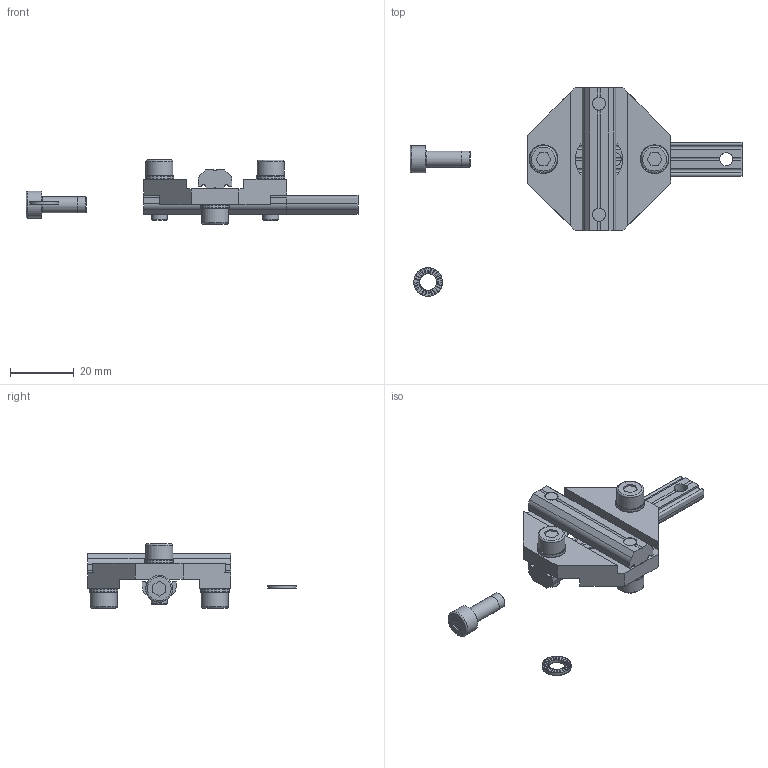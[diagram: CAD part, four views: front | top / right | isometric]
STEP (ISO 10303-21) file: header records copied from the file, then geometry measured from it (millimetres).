
FILE_DESCRIPTION( ( 'Unknown' ), '1' );
FILE_NAME( 'C:/Users/Fabrizio/Desktop/DISEGNI ACCESSORI FP SOLIDEDGE/CA.KPLX.2518.stp', 'Unknown', ( 'Unknown' ), ( 'Unknown' ), 'PSStep 13.0', 'Unknown', ' ' );
FILE_SCHEMA( ( 'AUTOMOTIVE_DESIGN { 1 0 10303 214 1 1 1 1 }' ) );
Length unit declared in the file: millimetre
Products named in the file (6): Assem1; R.5.SCH; V-tcei M  5 x 12; KPLX.2518; CA.GWP.5.35; V-tcei M  5 x 14
Bounding box: 104.5 x 65.64 x 20.2 mm (x, y, z)
Volume: 22191.6 mm3; surface area: 17062.8 mm2
Topology: 11 solids, 16 shells, 1187 faces, 3466 edges, 2296 vertices
Faces by surface type: plane 1095, cylinder 74, torus 12, cone 6
Full cylindrical faces by diameter (mm): 4.134 x6, 5 x6, 5.2 x8, 5.3 x5, 8.5 x6, 9 x5, 15 x2
Entity records: 10955 total; most frequent: CARTESIAN_POINT 1641, DIRECTION 1569, ORIENTED_EDGE 1530, EDGE_CURVE 765, AXIS2_PLACEMENT_3D 526, VERTEX_POINT 518, LINE 517, VECTOR 517
